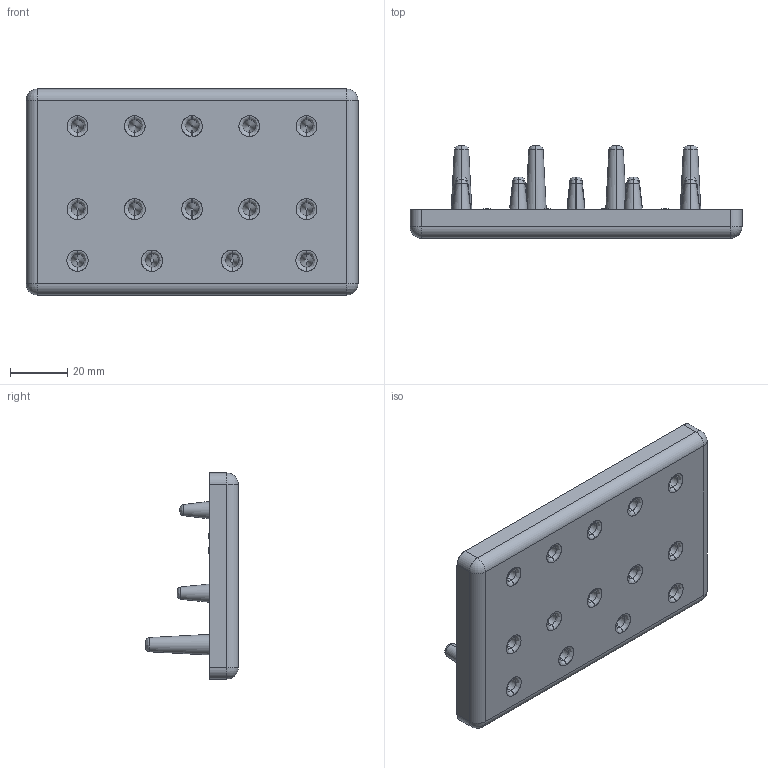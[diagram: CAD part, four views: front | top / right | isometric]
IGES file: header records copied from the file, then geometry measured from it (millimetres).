
Global section: file name: Filename.iges; native system: Open CASCADE 6.9; preprocessor: Open CASCADE IGES processor 6.9; author: root; date: 20160726.174437; units: metre
Bounding box: 116 x 32.4 x 72 mm (x, y, z)
Surface area: 30783.5 mm2 (no closed solid volume)
Topology: 0 solids, 0 shells, 510 faces, 5563 edges, 5555 vertices
Faces by surface type: bspline 412, revolution 98
